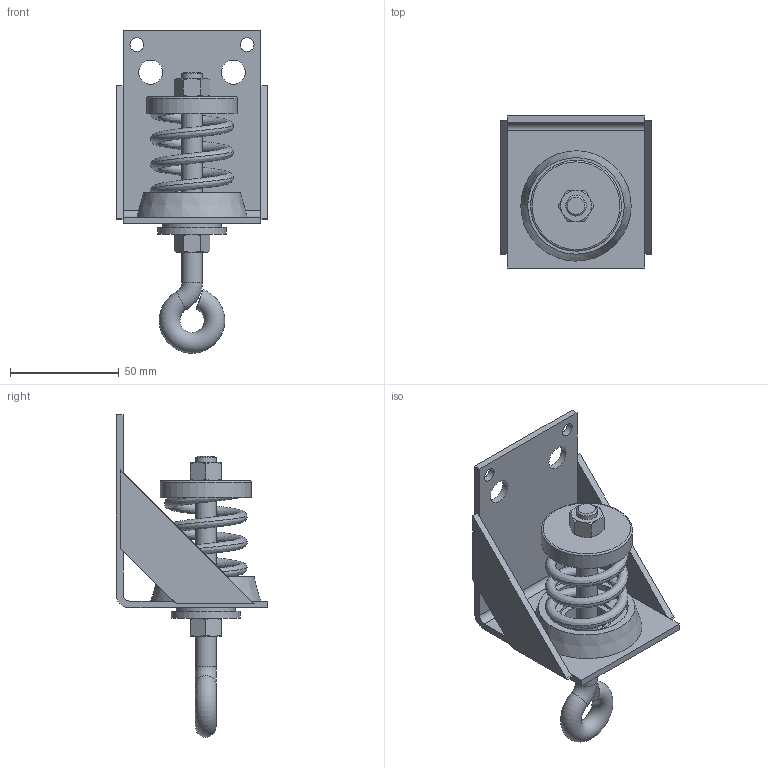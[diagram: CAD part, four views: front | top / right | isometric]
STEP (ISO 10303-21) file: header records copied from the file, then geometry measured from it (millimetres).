
FILE_DESCRIPTION(/* description */ (''),/* implementation_level */ '2;1');
FILE_NAME(/* name */ 'C:\001_Work\Designs\HANGER BOXES\ARCHITECTURAL CEILING HANGERS\W30SM-X\W30SM-X-210.stp',/* time_stamp */ '2016-01-28T11:07:51-05:00',/* author */ ('rramoutar'),/* organization */ ('Mason Industries Inc.'),/* preprocessor_version */ 'ST-DEVELOPER v15.6',/* originating_system */ 'Autodesk Inventor 2015',/* authorisation */ '');
FILE_SCHEMA (('CONFIG_CONTROL_DESIGN'));
Length unit declared in the file: inch
Products named in the file (1): W30SM-X-210
Bounding box: 69.85 x 69.85 x 148.4 mm (x, y, z)
Volume: 74711.2 mm3; surface area: 58671.3 mm2
Topology: 9 solids, 9 shells, 136 faces, 317 edges, 199 vertices
Faces by surface type: plane 58, cone 30, cylinder 23, bspline 22, torus 3
Full cylindrical faces by diameter (mm): 6.35 x2, 7.798 x2, 9.525 x2, 10.319 x1, 11.112 x2, 20.637 x1, 25.4 x1, 26.987 x2, 31.75 x1, 38.1 x1, 38.894 x1, 39.687 x1, 39.688 x1, 41.906 x1
Entity records: 10192 total; most frequent: CARTESIAN_POINT 7184, ORIENTED_EDGE 572, DIRECTION 502, EDGE_CURVE 286, AXIS2_PLACEMENT_3D 197, VERTEX_POINT 196, EDGE_LOOP 192, STYLED_ITEM 145
